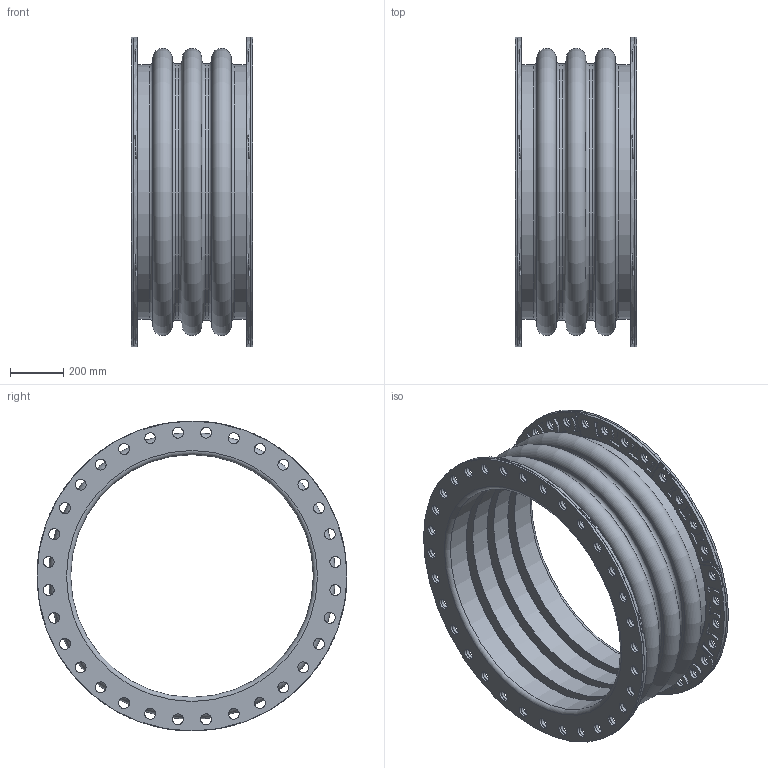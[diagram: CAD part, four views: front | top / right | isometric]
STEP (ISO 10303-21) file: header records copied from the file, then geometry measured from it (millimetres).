
FILE_DESCRIPTION(/* description */ (''),/* implementation_level */ '2;1');
FILE_NAME(/* name */ 'C:\001_Work\Designs\Mercer2014\MQInventor2014\RajR\500 Style\503\New folder\503 36IDx18FF.stp',/* time_stamp */ '2016-03-26T18:12:53-04:00',/* author */ ('rramoutar'),/* organization */ ('Mason Industries Inc.'),/* preprocessor_version */ 'ST-DEVELOPER v15.6',/* originating_system */ 'Autodesk Inventor 2015',/* authorisation */ '');
FILE_SCHEMA (('CONFIG_CONTROL_DESIGN'));
Length unit declared in the file: inch
Products named in the file (1): 503 36IDx18FF
Bounding box: 457.2 x 1168.4 x 1168.4 mm (x, y, z)
Volume: 62938961 mm3; surface area: 7499981.2 mm2
Topology: 3 solids, 3 shells, 988 faces, 2708 edges, 1788 vertices
Faces by surface type: cylinder 700, plane 228, torus 48, cone 12
Full cylindrical faces by diameter (mm): 41.275 x128, 914.4 x4, 958.85 x2, 965.2 x2, 971.55 x2, 1168.4 x2
Entity records: 33390 total; most frequent: DIRECTION 6062, CARTESIAN_POINT 6017, ORIENTED_EDGE 5044, AXIS2_PLACEMENT_3D 2583, EDGE_CURVE 2522, VERTEX_POINT 1770, CIRCLE 1594, EDGE_LOOP 1480
